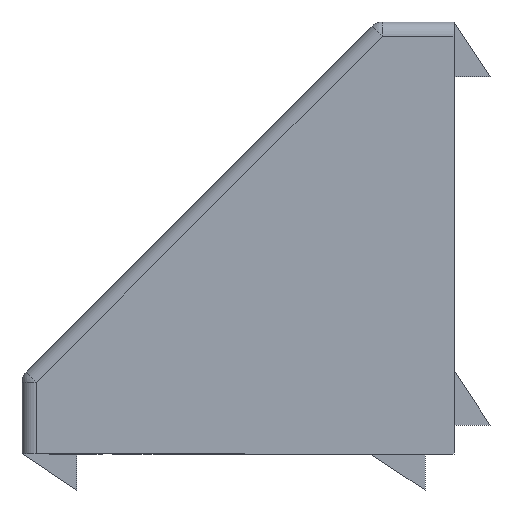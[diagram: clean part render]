
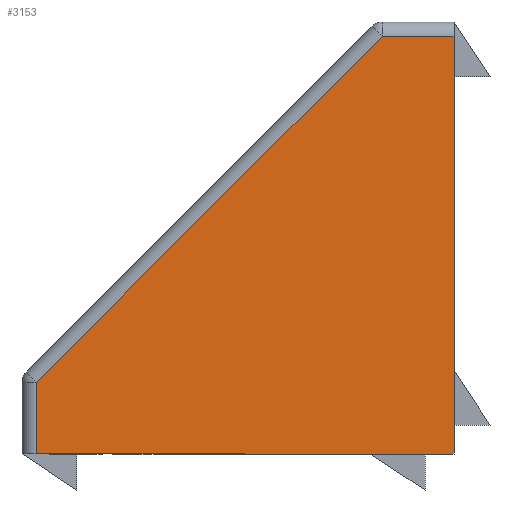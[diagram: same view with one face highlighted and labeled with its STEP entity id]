
A CAD part, left-side view. The second image highlights one B-rep face of the part: STEP entity #3153.
In plain terms, the highlighted planar face has unit normal (-1, 0, 0).
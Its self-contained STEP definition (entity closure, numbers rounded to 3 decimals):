
#10 = EDGE_CURVE ( 'NONE', #3106, #3089, #692, .T. ) ;
#223 = ORIENTED_EDGE ( 'NONE', *, *, #3391, .T. ) ;
#224 = ORIENTED_EDGE ( 'NONE', *, *, #3392, .T. ) ;
#225 = ORIENTED_EDGE ( 'NONE', *, *, #3393, .T. ) ;
#226 = ORIENTED_EDGE ( 'NONE', *, *, #3455, .F. ) ;
#227 = ORIENTED_EDGE ( 'NONE', *, *, #10, .F. ) ;
#692 = LINE ( 'NONE', #3132, #694 ) ;
#694 = VECTOR ( 'NONE', #3127, 1000. ) ;
#1056 = FACE_OUTER_BOUND ( 'NONE', #2930, .T. ) ;
#1534 = CARTESIAN_POINT ( 'NONE',  ( -12., 0., 0. ) ) ;
#1535 = CARTESIAN_POINT ( 'NONE',  ( -12., 29., 0. ) ) ;
#1551 = CARTESIAN_POINT ( 'NONE',  ( -12., 0., 29. ) ) ;
#1618 = CARTESIAN_POINT ( 'NONE',  ( -12., 0., 0. ) ) ;
#1625 = PLANE ( 'NONE',  #1661 ) ;
#1627 = DIRECTION ( 'NONE',  ( 1., 0., 0. ) ) ;
#1628 = DIRECTION ( 'NONE',  ( 0., 0., -1. ) ) ;
#1661 = AXIS2_PLACEMENT_3D ( 'NONE', #1618, #1627, #1628 ) ;
#2152 = LINE ( 'NONE', #2655, #2175 ) ;
#2170 = LINE ( 'NONE', #2665, #2173 ) ;
#2173 = VECTOR ( 'NONE', #2666, 1000. ) ;
#2174 = LINE ( 'NONE', #2668, #2177 ) ;
#2175 = VECTOR ( 'NONE', #2667, 1000. ) ;
#2177 = VECTOR ( 'NONE', #2669, 1000. ) ;
#2280 = LINE ( 'NONE', #2811, #2283 ) ;
#2283 = VECTOR ( 'NONE', #2812, 1000. ) ;
#2430 = CARTESIAN_POINT ( 'NONE',  ( -12., 4.986, 29. ) ) ;
#2433 = CARTESIAN_POINT ( 'NONE',  ( -12., 29., 4.986 ) ) ;
#2655 = CARTESIAN_POINT ( 'NONE',  ( -12., 16.993, 16.993 ) ) ;
#2665 = CARTESIAN_POINT ( 'NONE',  ( -12., 0., 29. ) ) ;
#2666 = DIRECTION ( 'NONE',  ( 0., 1., 0. ) ) ;
#2667 = DIRECTION ( 'NONE',  ( 0., 0.707, -0.707 ) ) ;
#2668 = CARTESIAN_POINT ( 'NONE',  ( -12., 29., 0. ) ) ;
#2669 = DIRECTION ( 'NONE',  ( 0., 0., -1. ) ) ;
#2811 = CARTESIAN_POINT ( 'NONE',  ( -12., 0., 0. ) ) ;
#2812 = DIRECTION ( 'NONE',  ( 0., 1., 0. ) ) ;
#2930 = EDGE_LOOP ( 'NONE', ( #223, #224, #225, #226, #227 ) ) ;
#3089 = VERTEX_POINT ( 'NONE', #1534 ) ;
#3090 = VERTEX_POINT ( 'NONE', #1535 ) ;
#3106 = VERTEX_POINT ( 'NONE', #1551 ) ;
#3127 = DIRECTION ( 'NONE',  ( 0., 0., -1. ) ) ;
#3132 = CARTESIAN_POINT ( 'NONE',  ( -12., 0., 30. ) ) ;
#3153 = ADVANCED_FACE ( 'NONE', ( #1056 ), #1625, .F. ) ;
#3303 = VERTEX_POINT ( 'NONE', #2430 ) ;
#3306 = VERTEX_POINT ( 'NONE', #2433 ) ;
#3391 = EDGE_CURVE ( 'NONE', #3106, #3303, #2170, .T. ) ;
#3392 = EDGE_CURVE ( 'NONE', #3303, #3306, #2152, .T. ) ;
#3393 = EDGE_CURVE ( 'NONE', #3306, #3090, #2174, .T. ) ;
#3455 = EDGE_CURVE ( 'NONE', #3089, #3090, #2280, .T. ) ;
